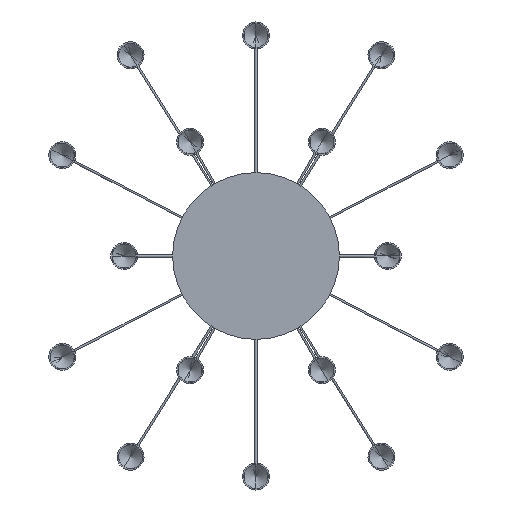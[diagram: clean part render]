
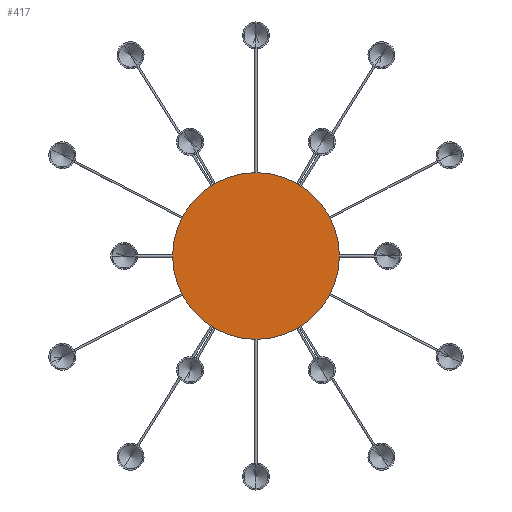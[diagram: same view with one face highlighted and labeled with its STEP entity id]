
A CAD part, front view. The second image highlights one B-rep face of the part: STEP entity #417.
In plain terms, the highlighted planar face has unit normal (0, -1, 0).
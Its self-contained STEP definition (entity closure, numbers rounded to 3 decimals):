
#96 = PLANE ( 'NONE',  #3455 ) ;
#136 = DIRECTION ( 'NONE',  ( 0., 0., 1. ) ) ;
#417 = ADVANCED_FACE ( 'NONE', ( #7302 ), #96, .F. ) ;
#677 = CARTESIAN_POINT ( 'NONE',  ( 0., 0., 0. ) ) ;
#1097 = CIRCLE ( 'NONE', #6400, 155. ) ;
#1176 = DIRECTION ( 'NONE',  ( 0., 1., 0. ) ) ;
#1309 = EDGE_LOOP ( 'NONE', ( #2095, #4279 ) ) ;
#1480 = CARTESIAN_POINT ( 'NONE',  ( 0., 0., 0. ) ) ;
#1590 = VERTEX_POINT ( 'NONE', #3120 ) ;
#2095 = ORIENTED_EDGE ( 'NONE', *, *, #4375, .F. ) ;
#2247 = CARTESIAN_POINT ( 'NONE',  ( 0., 0., 0. ) ) ;
#2489 = DIRECTION ( 'NONE',  ( 0., 0., 1. ) ) ;
#3120 = CARTESIAN_POINT ( 'NONE',  ( 0., 0., 155. ) ) ;
#3455 = AXIS2_PLACEMENT_3D ( 'NONE', #677, #4817, #2489 ) ;
#3517 = DIRECTION ( 'NONE',  ( 0., 0., 1. ) ) ;
#3532 = AXIS2_PLACEMENT_3D ( 'NONE', #2247, #1176, #3517 ) ;
#3661 = CIRCLE ( 'NONE', #3532, 155. ) ;
#3943 = VERTEX_POINT ( 'NONE', #5553 ) ;
#4279 = ORIENTED_EDGE ( 'NONE', *, *, #7053, .F. ) ;
#4375 = EDGE_CURVE ( 'NONE', #3943, #1590, #1097, .T. ) ;
#4817 = DIRECTION ( 'NONE',  ( 0., 1., 0. ) ) ;
#4851 = DIRECTION ( 'NONE',  ( 0., 1., 0. ) ) ;
#5553 = CARTESIAN_POINT ( 'NONE',  ( 0., 0., -155. ) ) ;
#6400 = AXIS2_PLACEMENT_3D ( 'NONE', #1480, #4851, #136 ) ;
#7053 = EDGE_CURVE ( 'NONE', #1590, #3943, #3661, .T. ) ;
#7302 = FACE_OUTER_BOUND ( 'NONE', #1309, .T. ) ;
